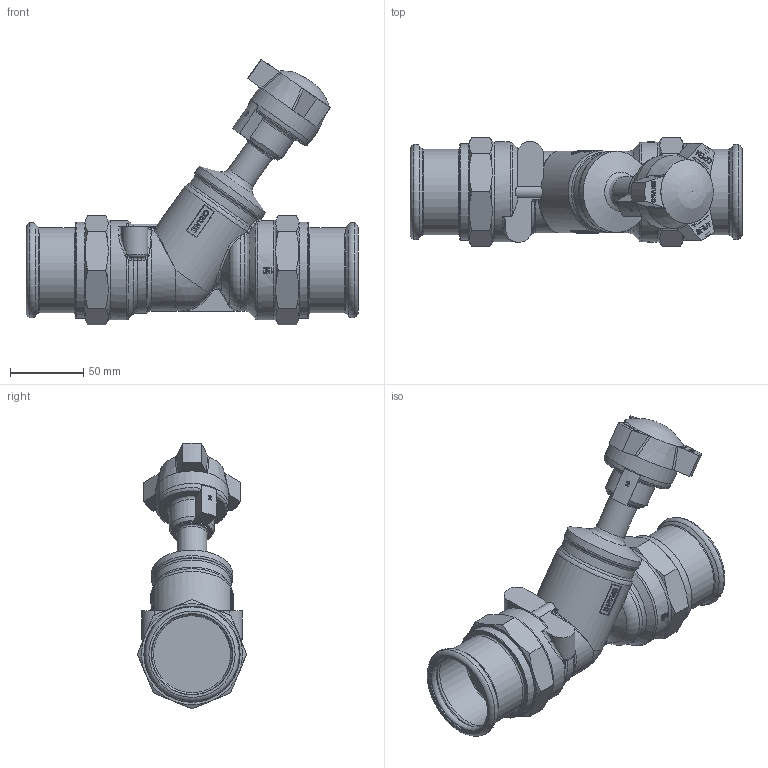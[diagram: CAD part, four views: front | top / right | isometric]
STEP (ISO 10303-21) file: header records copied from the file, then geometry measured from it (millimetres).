
FILE_DESCRIPTION((''),'2;1');
FILE_NAME('P:\Fastrack\53972_CRANE 3D\Push Fit\D921\D921-PF_54mm\D921-PF_54mm.stp','2011-08-24T09:38:13',('btaylor'),(''),'Autodesk Inventor 2008','Autodesk Inventor 2008','');
FILE_SCHEMA(('AUTOMOTIVE_DESIGN { 1 0 10303 214 1 1 1 1 }'));
Length unit declared in the file: millimetre
Products named in the file (1): D921-PF_54mm
Bounding box: 227 x 74.69 x 181.67 mm (x, y, z)
Volume: 633109.4 mm3; surface area: 104631.9 mm2
Topology: 1 solids, 3 shells, 1259 faces, 3493 edges, 2288 vertices
Faces by surface type: bspline 797, plane 320, cylinder 68, cone 54, torus 18, sphere 2
Full cylindrical faces by diameter (mm): 20.5 x1, 50 x1, 54.35 x2, 55 x2, 55.5 x1, 58.4 x2, 65.8 x2, 68 x2
Entity records: 164807 total; most frequent: CARTESIAN_POINT 138541, ORIENTED_EDGE 6832, EDGE_CURVE 3416, DIRECTION 2894, VERTEX_POINT 2269, B_SPLINE_CURVE_WITH_KNOTS 1576, VECTOR 1368, LINE 1368
